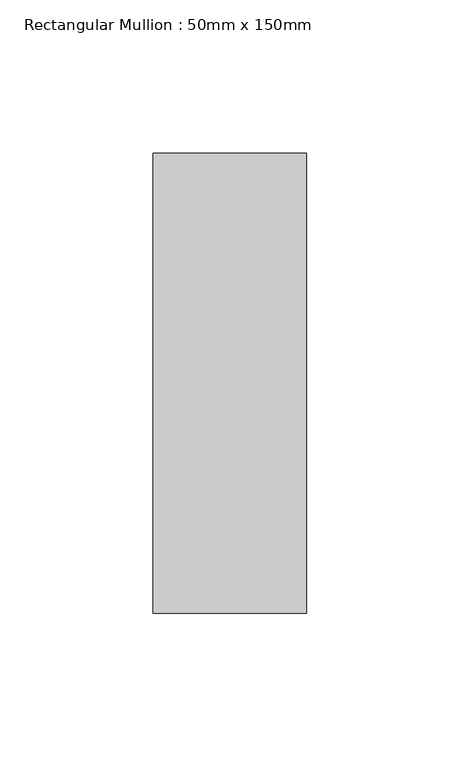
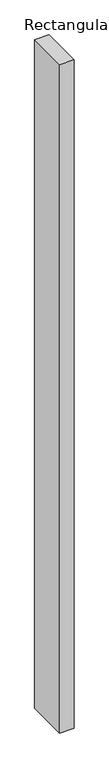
"""IFC4 building model written with IfcOpenShell, lengths in millimetres: member geometry, Rectangular Mullion : 50mm x 150mm."""

from ifc_helpers import new_model, si_unit, frame, origin, place, context, project, spatial, polyline, outline, extrude, source, transform, mapped, element, save


def rectangular_mullion_50mm_x_150mm_5f630e3e(model_context):
    return source(origin(), model_context, "Body", "SweptSolid", [
        extrude(outline(polyline([(0.0, 75.0), (0.0, -75.0), (-50.0, -75.0), (-50.0, 75.0), (0.0, 75.0)])), frame((0.0, 0.0, -2440.0), z_axis=(0.0, 0.0, 1.0), x_axis=(1.0, 0.0, 0.0)), (0.0, 0.0, 1.0), 2440.0),
    ])


if __name__ == "__main__":
    model = new_model("IFC4")
    model_context = context("Model", 3, world=origin())
    ifc_project = project(units=[si_unit("LENGTHUNIT", "METRE", prefix="MILLI")], contexts=[model_context])
    site = spatial("IfcSite", under=ifc_project)
    building = spatial("IfcBuilding", under=site)
    placement = place(None, origin())
    rectangular_mullion_50mm_x_150mm_shape = rectangular_mullion_50mm_x_150mm_5f630e3e(model_context)
    element("IfcMember", 1, ObjectType="Rectangular Mullion : 50mm x 150mm", at=placement, inside=building, context=model_context, shape_type="MappedRepresentation", body=[
        mapped(rectangular_mullion_50mm_x_150mm_shape, transform((0.0, 0.0, 0.0), x_axis=(1.0, 0.0, 0.0), y_axis=(0.0, 1.0, 0.0), z_axis=(0.0, 0.0, 1.0))),
    ])
    save(model, "model.ifc")
